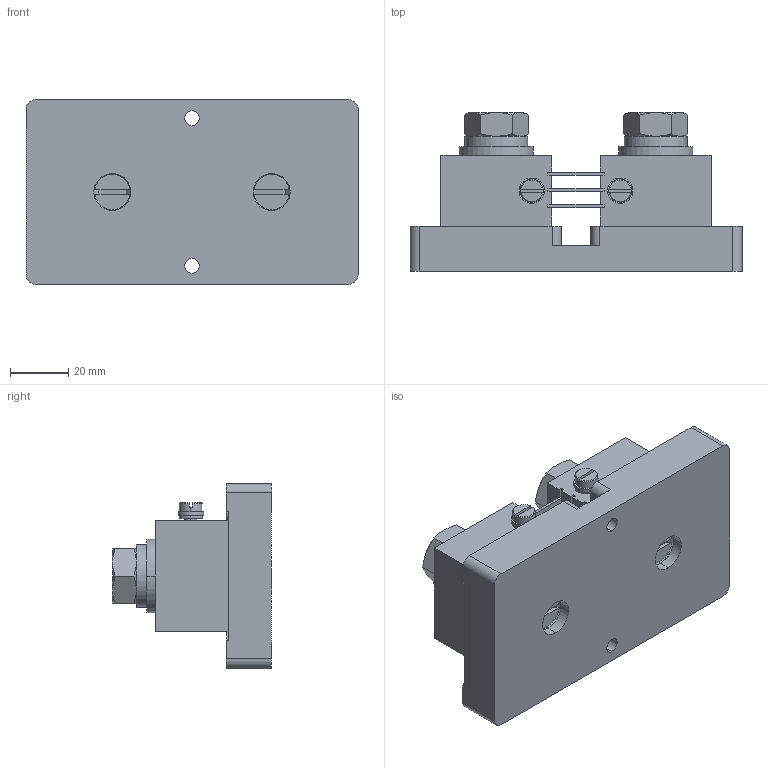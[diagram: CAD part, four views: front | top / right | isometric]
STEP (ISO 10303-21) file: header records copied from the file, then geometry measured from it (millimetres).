
FILE_DESCRIPTION (( 'STEP AP214' ), '1' );
FILE_NAME ('RSC.STEP', '2019-04-11T20:43:37', ( '' ), ( '' ), 'SwSTEP 2.0', 'SolidWorks 2019', '' );
FILE_SCHEMA (( 'AUTOMOTIVE_DESIGN' ));
Length unit declared in the file: inch
Products named in the file (10): RSC Small Lockwasher; RSC Large Washer; RSC Bolt; RSC Small Screw; RSC Mounting Screw; RSC Small Washer; RSC Base; RSC; RSC Large Lockwasher; RSC Element
Assembly tree (16 placements, depth 2):
  RSC
    RSC Base
    RSC Element
    RSC Small Screw  x2
    RSC Small Washer  x2
    RSC Small Lockwasher  x2
    RSC Mounting Screw  x2
    RSC Bolt  x2
    RSC Large Lockwasher  x2
    RSC Large Washer  x2
Bounding box: 114.3 x 54.61 x 63.5 mm (x, y, z)
Volume: 186513.9 mm3; surface area: 51225 mm2
Topology: 20 solids, 20 shells, 276 faces, 636 edges, 406 vertices
Faces by surface type: plane 144, cylinder 80, cone 52
Entity records: 6452 total; most frequent: CARTESIAN_POINT 1165, DIRECTION 1032, ORIENTED_EDGE 944, EDGE_CURVE 472, AXIS2_PLACEMENT_3D 373, VERTEX_POINT 306, LINE 286, VECTOR 286
